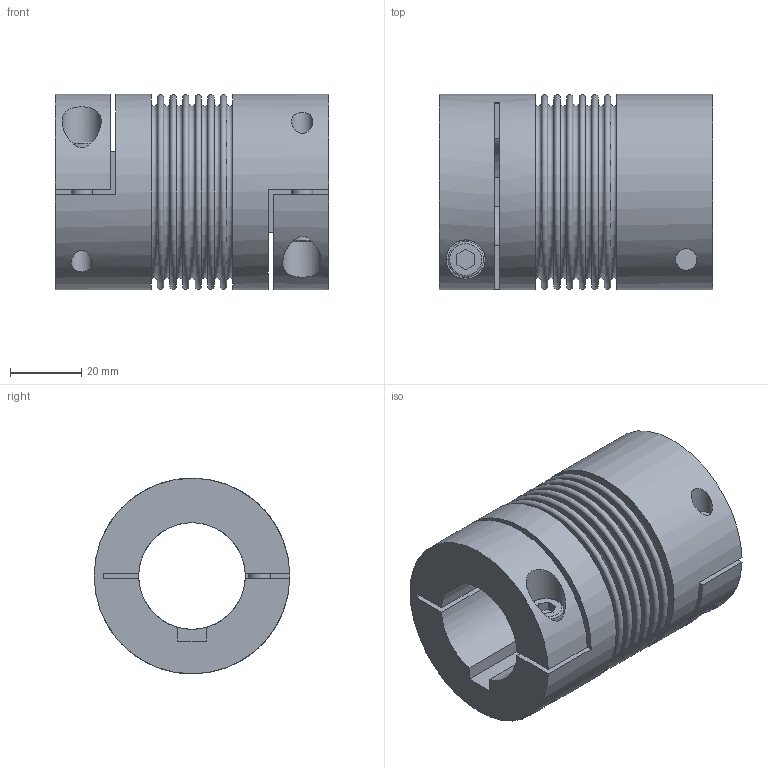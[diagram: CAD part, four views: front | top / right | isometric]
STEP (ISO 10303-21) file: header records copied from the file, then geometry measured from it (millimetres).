
FILE_DESCRIPTION(/* description */ ('STEP AP214'),/* implementation_level */ '2;1');
FILE_NAME(/* name */ 'C:\Diequa Files\DieQua Coupling\Website Step Files\BC.30.77.#.#.stp',/* time_stamp */ '2018-10-25T16:20:05-05:00',/* author */ ('DiequaCAD'),/* organization */ (''),/* preprocessor_version */ 'ST-DEVELOPER v17.2',/* originating_system */ 'Autodesk Inventor 2019',/* authorisation */ ' ');
FILE_SCHEMA (('AUTOMOTIVE_DESIGN { 1 0 10303 214 3 1 1 }'));
Length unit declared in the file: millimetre
Products named in the file (1): BC2.30.77.#.#
Bounding box: 77 x 55 x 55 mm (x, y, z)
Volume: 92875.8 mm3; surface area: 38309.2 mm2
Topology: 1 solids, 1 shells, 88 faces, 218 edges, 154 vertices
Faces by surface type: plane 58, torus 15, cylinder 15
Full cylindrical faces by diameter (mm): 6 x4, 10 x2, 11 x2, 46 x1, 55 x2
Entity records: 2895 total; most frequent: CARTESIAN_POINT 611, DIRECTION 495, ORIENTED_EDGE 436, EDGE_CURVE 218, AXIS2_PLACEMENT_3D 194, VERTEX_POINT 154, EDGE_LOOP 116, LINE 107
